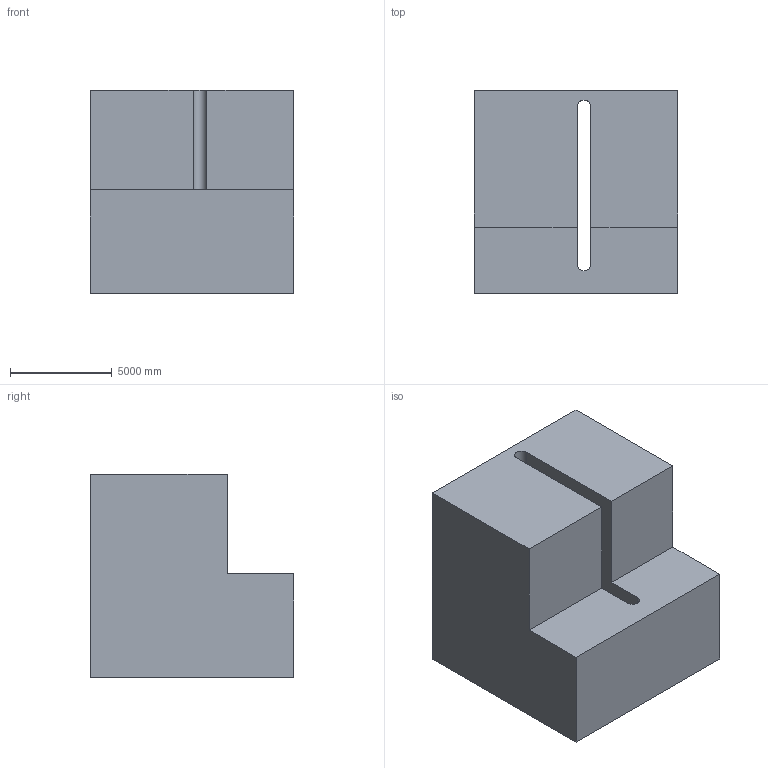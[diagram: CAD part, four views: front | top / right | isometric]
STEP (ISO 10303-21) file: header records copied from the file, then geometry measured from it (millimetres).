
FILE_DESCRIPTION (( 'STEP AP203' ), '1' );
FILE_NAME ('7.STEP', '2022-09-01T11:35:05', ( 'user' ), ( '' ), 'SwSTEP 2.0', 'SolidWorks 2021', '' );
FILE_SCHEMA (( 'CONFIG_CONTROL_DESIGN' ));
Length unit declared in the file: centimetre
Products named in the file (1): 7
Bounding box: 10000 x 10000 x 10000 mm (x, y, z)
Volume: 791873061748.7 mm3; surface area: 706425170.8 mm2
Topology: 1 solids, 1 shells, 13 faces, 36 edges, 24 vertices
Faces by surface type: plane 11, cylinder 2
Entity records: 495 total; most frequent: CARTESIAN_POINT 74, ORIENTED_EDGE 72, DIRECTION 68, EDGE_CURVE 36, LINE 32, VECTOR 32, VERTEX_POINT 24, AXIS2_PLACEMENT_3D 18
